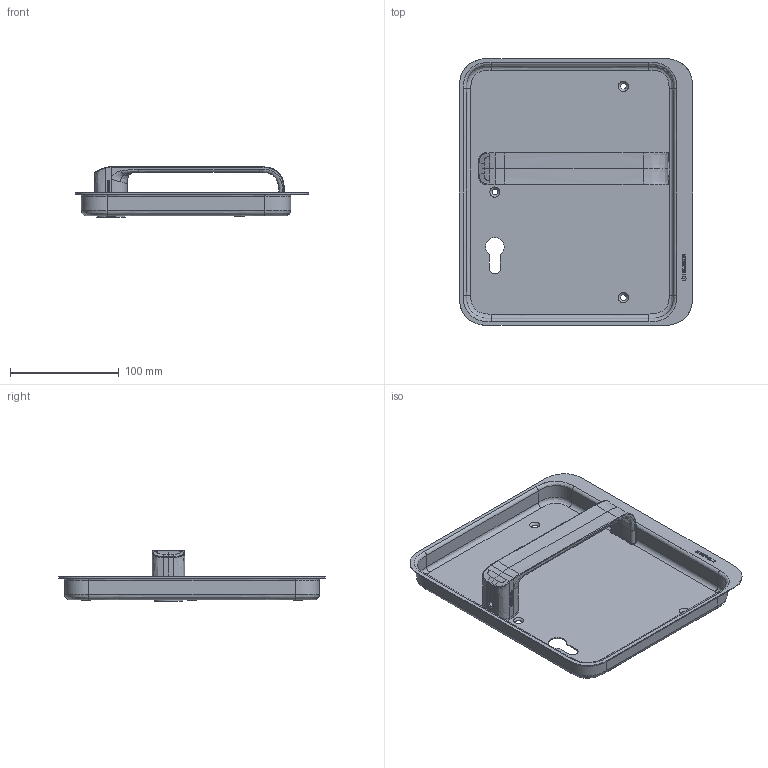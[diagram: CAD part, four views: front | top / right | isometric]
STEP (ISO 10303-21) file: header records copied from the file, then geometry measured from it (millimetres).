
FILE_DESCRIPTION(/* description */ (''),/* implementation_level */ '2;1');
FILE_NAME(/* name */ 'M:\LOC Heusser-Muscheln\Muschel Serie 9\Muschel Serie 9 EN179\S9.20.D4\Heusser-Muschel S9.20.D4.372R.stp',/* time_stamp */ '2020-10-07T16:42:04+02:00',/* author */ ('gm'),/* organization */ (''),/* preprocessor_version */ 'ST-DEVELOPER v16.5',/* originating_system */ 'Autodesk Inventor 2017',/* authorisation */ '');
FILE_SCHEMA (('AUTOMOTIVE_DESIGN { 1 0 10303 214 3 1 1 }'));
Length unit declared in the file: millimetre
Products named in the file (1): S9.20.D4
Bounding box: 214 x 245 x 47.34 mm (x, y, z)
Volume: 118406.4 mm3; surface area: 152924.5 mm2
Topology: 1 solids, 2 shells, 603 faces, 1595 edges, 1040 vertices
Faces by surface type: plane 292, bspline 267, cylinder 26, cone 18
Full cylindrical faces by diameter (mm): 1.7 x2, 4.917 x1, 14.2 x1, 16 x3, 18 x1, 19 x1, 19.1 x1, 23 x1, 23.2 x1, 24 x1, 25 x1, 26 x1, 28 x1, 28.6 x1
Entity records: 29665 total; most frequent: CARTESIAN_POINT 15864, ORIENTED_EDGE 3102, DIRECTION 1915, EDGE_CURVE 1551, VERTEX_POINT 1031, LINE 891, VECTOR 891, EDGE_LOOP 700
